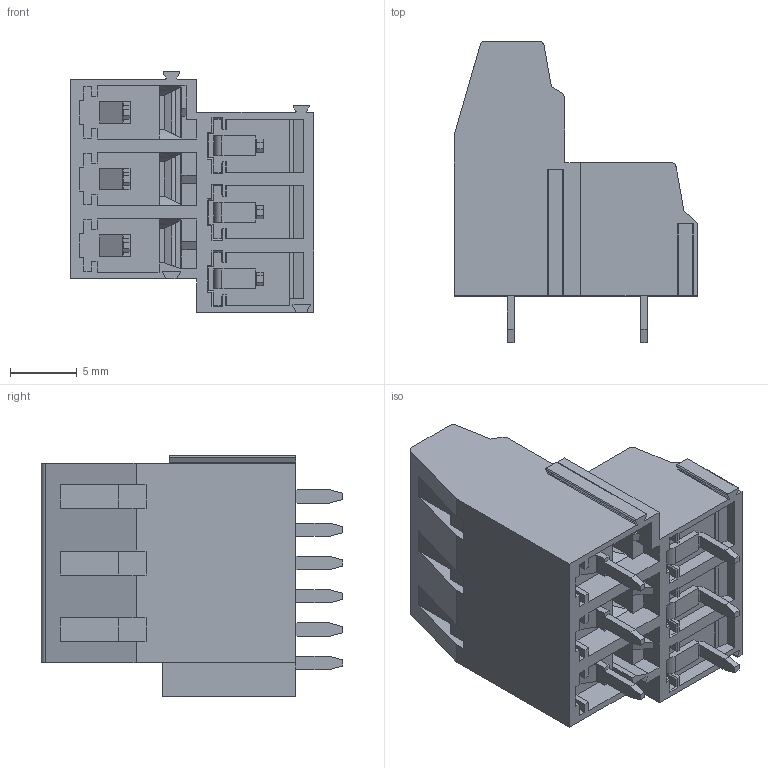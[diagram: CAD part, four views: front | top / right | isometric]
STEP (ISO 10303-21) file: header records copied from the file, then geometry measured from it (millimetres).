
FILE_DESCRIPTION((''),'2;1');
FILE_NAME('3','2019-05-09T',('zhenbing.lai'),(''),'CREO PARAMETRIC BY PTC INC, 2016260','CREO PARAMETRIC BY PTC INC, 2016260','');
FILE_SCHEMA(('CONFIG_CONTROL_DESIGN'));
Length unit declared in the file: millimetre
Products named in the file (1): 3
Bounding box: 18.3 x 22.6 x 18.05 mm (x, y, z)
Volume: 3008.1 mm3; surface area: 2839.4 mm2
Topology: 1 solids, 1 shells, 678 faces, 1944 edges, 1303 vertices
Faces by surface type: plane 507, cylinder 129, torus 42
Entity records: 24820 total; most frequent: CARTESIAN_POINT 7146, ORIENTED_EDGE 3888, DIRECTION 3395, EDGE_CURVE 1944, VECTOR 1325, LINE 1325, VERTEX_POINT 1303, AXIS2_PLACEMENT_3D 1035
